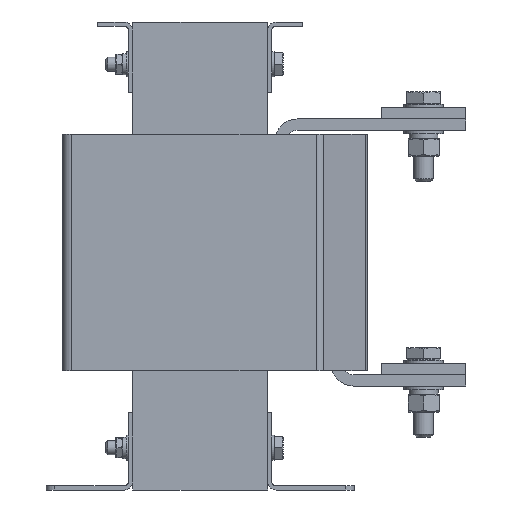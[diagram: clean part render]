
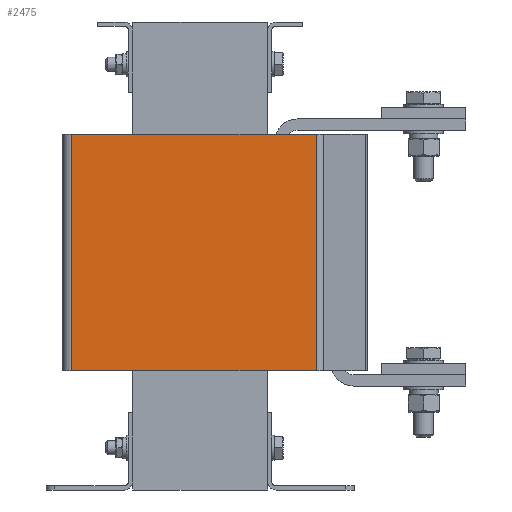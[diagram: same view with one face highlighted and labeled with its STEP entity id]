
A CAD part, front view. The second image highlights one B-rep face of the part: STEP entity #2475.
In plain terms, the highlighted planar face has unit normal (0, -1, 0).
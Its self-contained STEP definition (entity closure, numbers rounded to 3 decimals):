
#2475=ADVANCED_FACE('',(#3939),#3941,.T.);
#3939=FACE_BOUND('',#3940,.T.);
#3940=EDGE_LOOP('',(#5677,#5678,#5679,#5680));
#3941=PLANE('',#3942);
#3942=AXIS2_PLACEMENT_3D('',#3943,#3944,#3945);
#3943=CARTESIAN_POINT('',(-91.3,-150.7,85.));
#3944=DIRECTION('',(0.,-1.,0.));
#3945=DIRECTION('',(1.,0.,0.));
#5677=ORIENTED_EDGE('',*,*,#6450,.T.);
#5678=ORIENTED_EDGE('',*,*,#6523,.T.);
#5679=ORIENTED_EDGE('',*,*,#6476,.F.);
#5680=ORIENTED_EDGE('',*,*,#6524,.F.);
#6450=EDGE_CURVE('',#7206,#7204,#7207,.T.);
#6476=EDGE_CURVE('',#7250,#7252,#7253,.T.);
#6523=EDGE_CURVE('',#7204,#7252,#7317,.T.);
#6524=EDGE_CURVE('',#7206,#7250,#7318,.T.);
#7204=VERTEX_POINT('',#8742);
#7206=VERTEX_POINT('',#8747);
#7207=LINE('',#8748,#8749);
#7250=VERTEX_POINT('',#8846);
#7252=VERTEX_POINT('',#8851);
#7253=LINE('',#8852,#8853);
#7317=LINE('',#9017,#9018);
#7318=LINE('',#9020,#9021);
#8742=CARTESIAN_POINT('',(82.5,-150.7,85.));
#8747=CARTESIAN_POINT('',(-91.3,-150.7,85.));
#8748=CARTESIAN_POINT('',(-91.3,-150.7,85.));
#8749=VECTOR('',#8750,1.);
#8750=DIRECTION('',(1.,0.,0.));
#8846=CARTESIAN_POINT('',(-91.3,-150.7,253.));
#8851=CARTESIAN_POINT('',(82.5,-150.7,253.));
#8852=CARTESIAN_POINT('',(-91.3,-150.7,253.));
#8853=VECTOR('',#8854,1.);
#8854=DIRECTION('',(1.,0.,0.));
#9017=CARTESIAN_POINT('',(82.5,-150.7,85.));
#9018=VECTOR('',#9019,1.);
#9019=DIRECTION('',(0.,0.,1.));
#9020=CARTESIAN_POINT('',(-91.3,-150.7,85.));
#9021=VECTOR('',#9022,1.);
#9022=DIRECTION('',(0.,0.,1.));
